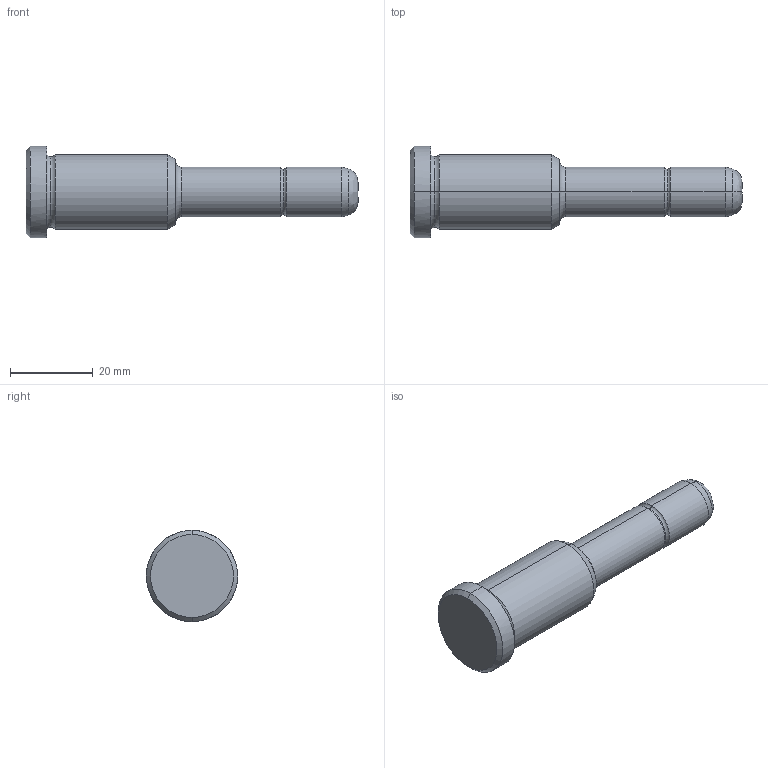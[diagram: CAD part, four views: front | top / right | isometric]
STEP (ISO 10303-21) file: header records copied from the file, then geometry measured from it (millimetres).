
FILE_DESCRIPTION(('CATIA V5 STEP Exchange'),'2;1');
FILE_NAME('C:\Users\Utente\Desktop\IO LAVORO\3D X SITO CF\X SITO\PLASTICA\351\351-12X36X80.stp','2021-08-17T12:29:30+00:00',('none'),('none'),'CATIA Version 5 Release 20 GA (IN-10)','CATIA V5 STEP AP203','none');
FILE_SCHEMA(('CONFIG_CONTROL_DESIGN'));
Length unit declared in the file: millimetre
Products named in the file (1): 351-12X36X80
Bounding box: 80 x 22 x 22 mm (x, y, z)
Volume: 14524.3 mm3; surface area: 4357.5 mm2
Topology: 1 solids, 1 shells, 30 faces, 86 edges, 60 vertices
Faces by surface type: torus 10, cylinder 8, cone 6, plane 4, bspline 2
Entity records: 1128 total; most frequent: CARTESIAN_POINT 343, ORIENTED_EDGE 172, DIRECTION 124, EDGE_CURVE 86, AXIS2_PLACEMENT_3D 83, VERTEX_POINT 60, CIRCLE 54, EDGE_LOOP 32
